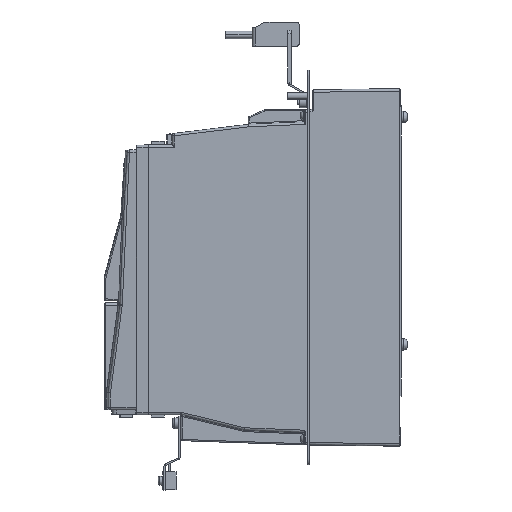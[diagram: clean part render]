
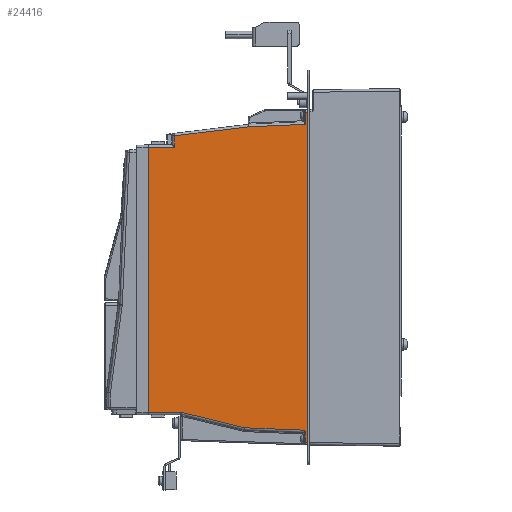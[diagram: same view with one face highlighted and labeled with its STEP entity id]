
A CAD part, left-side view. The second image highlights one B-rep face of the part: STEP entity #24416.
In plain terms, the highlighted planar face has unit normal (-1, 0, 0).
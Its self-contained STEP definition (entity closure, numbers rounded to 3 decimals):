
#10 = VERTEX_POINT ( 'NONE', #31355 ) ;
#661 = CARTESIAN_POINT ( 'NONE',  ( -64., 74.55, -287. ) ) ;
#955 = CARTESIAN_POINT ( 'NONE',  ( -64., 202.8, -262.5 ) ) ;
#1085 = VECTOR ( 'NONE', #40597, 1000. ) ;
#2488 = EDGE_CURVE ( 'NONE', #14104, #26775, #49045, .T. ) ;
#2512 = LINE ( 'NONE', #22528, #7626 ) ;
#2859 = AXIS2_PLACEMENT_3D ( 'NONE', #5847, #38069, #46186 ) ;
#3533 = EDGE_CURVE ( 'NONE', #27605, #45081, #11673, .T. ) ;
#3581 = CARTESIAN_POINT ( 'NONE',  ( -64., 74.55, -19. ) ) ;
#3835 = CARTESIAN_POINT ( 'NONE',  ( -64., 182.5, -289. ) ) ;
#3889 = VERTEX_POINT ( 'NONE', #34936 ) ;
#4361 = LINE ( 'NONE', #3835, #15354 ) ;
#5068 = EDGE_CURVE ( 'NONE', #24724, #13911, #50912, .T. ) ;
#5847 = CARTESIAN_POINT ( 'NONE',  ( -64., 202.8, -289. ) ) ;
#6618 = ORIENTED_EDGE ( 'NONE', *, *, #36179, .T. ) ;
#6873 = CARTESIAN_POINT ( 'NONE',  ( -64., 77.5, -277.013 ) ) ;
#7459 = ORIENTED_EDGE ( 'NONE', *, *, #3533, .T. ) ;
#7581 = EDGE_LOOP ( 'NONE', ( #31390, #27401, #7459, #49047, #33933, #43874, #6618, #34329, #10439, #44343, #26509, #52199, #8442, #19537 ) ) ;
#7626 = VECTOR ( 'NONE', #51000, 1000. ) ;
#8442 = ORIENTED_EDGE ( 'NONE', *, *, #9869, .T. ) ;
#8489 = VECTOR ( 'NONE', #41549, 1000. ) ;
#8785 = CARTESIAN_POINT ( 'NONE',  ( -64., 77.5, -277.013 ) ) ;
#9643 = CARTESIAN_POINT ( 'NONE',  ( -64., 76.5, -28.98 ) ) ;
#9869 = EDGE_CURVE ( 'NONE', #11032, #37404, #23939, .T. ) ;
#10118 = LINE ( 'NONE', #955, #52652 ) ;
#10439 = ORIENTED_EDGE ( 'NONE', *, *, #43934, .T. ) ;
#10922 = B_SPLINE_CURVE_WITH_KNOTS ( 'NONE', 3,
 ( #6873, #44221, #23345, #36131, #11455, #51826, #19293, #52902 ),
 .UNSPECIFIED., .F., .F.,
 ( 4, 2, 2, 4 ),
 ( 0., 0.001, 0.002, 0.002 ),
 .UNSPECIFIED. ) ;
#11032 = VERTEX_POINT ( 'NONE', #45051 ) ;
#11099 = EDGE_CURVE ( 'NONE', #26775, #33985, #47651, .T. ) ;
#11455 = CARTESIAN_POINT ( 'NONE',  ( -64., 76.652, -278.27 ) ) ;
#11522 = VERTEX_POINT ( 'NONE', #49461 ) ;
#11673 = LINE ( 'NONE', #53129, #17755 ) ;
#12196 = CARTESIAN_POINT ( 'NONE',  ( -64., 76.5, -289. ) ) ;
#12816 = VERTEX_POINT ( 'NONE', #9643 ) ;
#13905 = DIRECTION ( 'NONE',  ( 0., -1., 0. ) ) ;
#13911 = VERTEX_POINT ( 'NONE', #26038 ) ;
#14104 = VERTEX_POINT ( 'NONE', #28704 ) ;
#15354 = VECTOR ( 'NONE', #19748, 1000. ) ;
#15966 = VECTOR ( 'NONE', #45372, 1000. ) ;
#16188 = EDGE_CURVE ( 'NONE', #11522, #27605, #37206, .T. ) ;
#17356 = DIRECTION ( 'NONE',  ( 0., 1., 0. ) ) ;
#17422 = EDGE_CURVE ( 'NONE', #10, #11522, #10118, .T. ) ;
#17755 = VECTOR ( 'NONE', #32538, 1000. ) ;
#17990 = EDGE_CURVE ( 'NONE', #13911, #11032, #4361, .T. ) ;
#18492 = EDGE_CURVE ( 'NONE', #45081, #14104, #10922, .T. ) ;
#18908 = CARTESIAN_POINT ( 'NONE',  ( -64., 202.8, -287. ) ) ;
#19293 = CARTESIAN_POINT ( 'NONE',  ( -64., 76.5, -278.822 ) ) ;
#19537 = ORIENTED_EDGE ( 'NONE', *, *, #52688, .F. ) ;
#19748 = DIRECTION ( 'NONE',  ( 0., 0., -1. ) ) ;
#19752 = DIRECTION ( 'NONE',  ( 0., 0., -1. ) ) ;
#20286 = VERTEX_POINT ( 'NONE', #3581 ) ;
#21166 = LINE ( 'NONE', #37728, #31170 ) ;
#21782 = FACE_OUTER_BOUND ( 'NONE', #7581, .T. ) ;
#22528 = CARTESIAN_POINT ( 'NONE',  ( -64., 213.846, -34.952 ) ) ;
#23345 = CARTESIAN_POINT ( 'NONE',  ( -64., 77.016, -277.606 ) ) ;
#23939 = LINE ( 'NONE', #52942, #44151 ) ;
#24416 = ADVANCED_FACE ( 'NONE', ( #21782 ), #42938, .F. ) ;
#24724 = VERTEX_POINT ( 'NONE', #48856 ) ;
#26038 = CARTESIAN_POINT ( 'NONE',  ( -64., 182.5, -38.271 ) ) ;
#26090 = LINE ( 'NONE', #49685, #8489 ) ;
#26509 = ORIENTED_EDGE ( 'NONE', *, *, #5068, .T. ) ;
#26775 = VERTEX_POINT ( 'NONE', #29281 ) ;
#27261 = CARTESIAN_POINT ( 'NONE',  ( -64., 204.2, -47.5 ) ) ;
#27401 = ORIENTED_EDGE ( 'NONE', *, *, #16188, .T. ) ;
#27605 = VERTEX_POINT ( 'NONE', #45597 ) ;
#28704 = CARTESIAN_POINT ( 'NONE',  ( -64., 76.5, -279.014 ) ) ;
#29281 = CARTESIAN_POINT ( 'NONE',  ( -64., 76.5, -287. ) ) ;
#30078 = VECTOR ( 'NONE', #33401, 1000. ) ;
#31170 = VECTOR ( 'NONE', #17356, 1000. ) ;
#31355 = CARTESIAN_POINT ( 'NONE',  ( -64., 204.2, -262.5 ) ) ;
#31390 = ORIENTED_EDGE ( 'NONE', *, *, #17422, .T. ) ;
#32155 = LINE ( 'NONE', #40562, #40068 ) ;
#32538 = DIRECTION ( 'NONE',  ( 0., -0.999, -0.041 ) ) ;
#33401 = DIRECTION ( 'NONE',  ( 0., -0.972, -0.236 ) ) ;
#33933 = ORIENTED_EDGE ( 'NONE', *, *, #2488, .T. ) ;
#33985 = VERTEX_POINT ( 'NONE', #661 ) ;
#34329 = ORIENTED_EDGE ( 'NONE', *, *, #45579, .T. ) ;
#34931 = CARTESIAN_POINT ( 'NONE',  ( -64., 232.631, -44.384 ) ) ;
#34936 = CARTESIAN_POINT ( 'NONE',  ( -64., 76.5, -19. ) ) ;
#35713 = DIRECTION ( 'NONE',  ( 0., 0., 1. ) ) ;
#35753 = VECTOR ( 'NONE', #19752, 1000. ) ;
#36131 = CARTESIAN_POINT ( 'NONE',  ( -64., 76.733, -278.099 ) ) ;
#36179 = EDGE_CURVE ( 'NONE', #33985, #20286, #32155, .T. ) ;
#37206 = LINE ( 'NONE', #53451, #30078 ) ;
#37404 = VERTEX_POINT ( 'NONE', #27261 ) ;
#37728 = CARTESIAN_POINT ( 'NONE',  ( -64., 202.8, -19. ) ) ;
#38069 = DIRECTION ( 'NONE',  ( 1., 0., 0. ) ) ;
#40068 = VECTOR ( 'NONE', #35713, 1000. ) ;
#40562 = CARTESIAN_POINT ( 'NONE',  ( -64., 74.55, 10. ) ) ;
#40597 = DIRECTION ( 'NONE',  ( 0., -1., 0. ) ) ;
#41549 = DIRECTION ( 'NONE',  ( 0., 0., -1. ) ) ;
#42938 = PLANE ( 'NONE',  #2859 ) ;
#43874 = ORIENTED_EDGE ( 'NONE', *, *, #11099, .T. ) ;
#43934 = EDGE_CURVE ( 'NONE', #3889, #12816, #26090, .T. ) ;
#44135 = EDGE_CURVE ( 'NONE', #12816, #24724, #2512, .T. ) ;
#44151 = VECTOR ( 'NONE', #49691, 1000. ) ;
#44221 = CARTESIAN_POINT ( 'NONE',  ( -64., 77.259, -277.308 ) ) ;
#44343 = ORIENTED_EDGE ( 'NONE', *, *, #44135, .T. ) ;
#45051 = CARTESIAN_POINT ( 'NONE',  ( -64., 182.5, -47.5 ) ) ;
#45081 = VERTEX_POINT ( 'NONE', #8785 ) ;
#45372 = DIRECTION ( 'NONE',  ( 0., 0., 1. ) ) ;
#45579 = EDGE_CURVE ( 'NONE', #20286, #3889, #21166, .T. ) ;
#45597 = CARTESIAN_POINT ( 'NONE',  ( -64., 125.725, -275.044 ) ) ;
#46186 = DIRECTION ( 'NONE',  ( 0., 0., -1. ) ) ;
#46571 = DIRECTION ( 'NONE',  ( 0., 0.993, -0.121 ) ) ;
#47651 = LINE ( 'NONE', #18908, #1085 ) ;
#47803 = VECTOR ( 'NONE', #46571, 1000. ) ;
#48856 = CARTESIAN_POINT ( 'NONE',  ( -64., 122.835, -30.995 ) ) ;
#49045 = LINE ( 'NONE', #12196, #35753 ) ;
#49047 = ORIENTED_EDGE ( 'NONE', *, *, #18492, .T. ) ;
#49461 = CARTESIAN_POINT ( 'NONE',  ( -64., 177.407, -262.5 ) ) ;
#49685 = CARTESIAN_POINT ( 'NONE',  ( -64., 76.5, -289. ) ) ;
#49691 = DIRECTION ( 'NONE',  ( 0., 1., 0. ) ) ;
#49710 = CARTESIAN_POINT ( 'NONE',  ( -64., 204.2, 0. ) ) ;
#50912 = LINE ( 'NONE', #34931, #47803 ) ;
#51000 = DIRECTION ( 'NONE',  ( 0., 0.999, -0.043 ) ) ;
#51826 = CARTESIAN_POINT ( 'NONE',  ( -64., 76.535, -278.634 ) ) ;
#52155 = LINE ( 'NONE', #49710, #15966 ) ;
#52199 = ORIENTED_EDGE ( 'NONE', *, *, #17990, .T. ) ;
#52652 = VECTOR ( 'NONE', #13905, 1000. ) ;
#52688 = EDGE_CURVE ( 'NONE', #10, #37404, #52155, .T. ) ;
#52902 = CARTESIAN_POINT ( 'NONE',  ( -64., 76.5, -279.014 ) ) ;
#52942 = CARTESIAN_POINT ( 'NONE',  ( -64., 202.8, -47.5 ) ) ;
#53129 = CARTESIAN_POINT ( 'NONE',  ( -64., 76.92, -277.036 ) ) ;
#53451 = CARTESIAN_POINT ( 'NONE',  ( -64., 125.536, -275.09 ) ) ;
